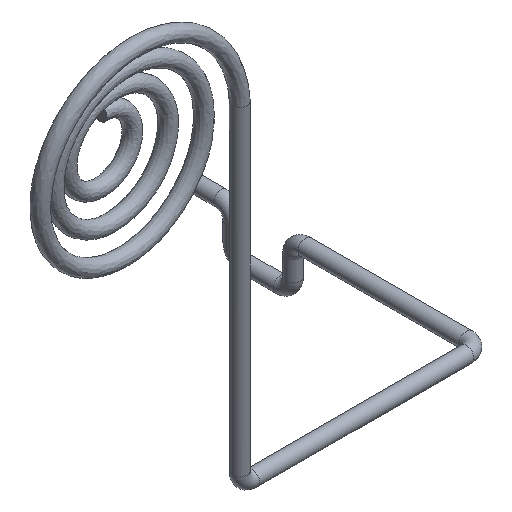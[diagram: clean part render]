
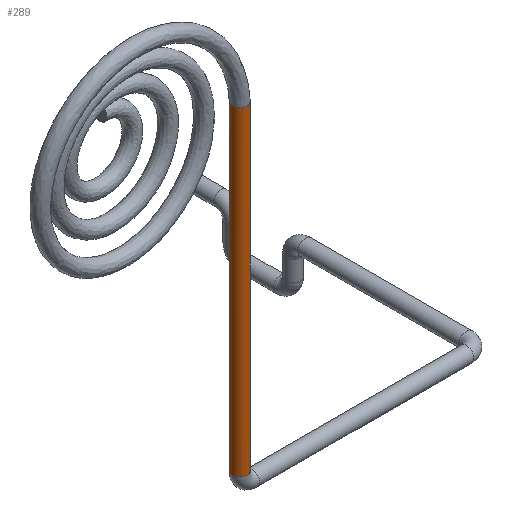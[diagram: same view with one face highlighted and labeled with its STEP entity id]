
A CAD part, isometric view. The second image highlights one B-rep face of the part: STEP entity #289.
In plain terms, the highlighted cylindrical face has radius 0.3 mm (diameter 0.6 mm), a full revolution.
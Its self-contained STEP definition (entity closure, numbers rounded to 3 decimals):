
#38=FACE_OUTER_BOUND('',#54,.T.);
#54=EDGE_LOOP('',(#253,#254,#255,#256,#257,#258,#259,#260));
#63=LINE('',#546,#70);
#70=VECTOR('',#455,0.3);
#100=CIRCLE('',#348,0.3);
#101=CIRCLE('',#349,0.3);
#102=CIRCLE('',#351,0.3);
#103=CIRCLE('',#352,0.3);
#104=CIRCLE('',#353,0.3);
#105=CIRCLE('',#354,0.3);
#130=VERTEX_POINT('',#539);
#131=VERTEX_POINT('',#541);
#132=VERTEX_POINT('',#545);
#133=VERTEX_POINT('',#547);
#134=VERTEX_POINT('',#549);
#135=VERTEX_POINT('',#551);
#172=EDGE_CURVE('',#130,#131,#100,.T.);
#173=EDGE_CURVE('',#131,#130,#101,.T.);
#174=EDGE_CURVE('',#131,#132,#63,.T.);
#175=EDGE_CURVE('',#132,#133,#102,.T.);
#176=EDGE_CURVE('',#133,#134,#103,.T.);
#177=EDGE_CURVE('',#134,#135,#104,.T.);
#178=EDGE_CURVE('',#135,#132,#105,.T.);
#253=ORIENTED_EDGE('',*,*,#173,.F.);
#254=ORIENTED_EDGE('',*,*,#174,.T.);
#255=ORIENTED_EDGE('',*,*,#175,.T.);
#256=ORIENTED_EDGE('',*,*,#176,.T.);
#257=ORIENTED_EDGE('',*,*,#177,.T.);
#258=ORIENTED_EDGE('',*,*,#178,.T.);
#259=ORIENTED_EDGE('',*,*,#174,.F.);
#260=ORIENTED_EDGE('',*,*,#172,.F.);
#275=CYLINDRICAL_SURFACE('',#350,0.3);
#289=ADVANCED_FACE('',(#38),#275,.T.);
#348=AXIS2_PLACEMENT_3D('',#542,#449,#450);
#349=AXIS2_PLACEMENT_3D('',#543,#451,#452);
#350=AXIS2_PLACEMENT_3D('',#544,#453,#454);
#351=AXIS2_PLACEMENT_3D('',#548,#456,#457);
#352=AXIS2_PLACEMENT_3D('',#550,#458,#459);
#353=AXIS2_PLACEMENT_3D('',#552,#460,#461);
#354=AXIS2_PLACEMENT_3D('',#553,#462,#463);
#449=DIRECTION('center_axis',(0.,0.,-1.));
#450=DIRECTION('ref_axis',(1.,0.,0.));
#451=DIRECTION('center_axis',(0.,0.,-1.));
#452=DIRECTION('ref_axis',(1.,0.,0.));
#453=DIRECTION('center_axis',(0.,0.,-1.));
#454=DIRECTION('ref_axis',(1.,0.,0.));
#455=DIRECTION('',(0.,0.,1.));
#456=DIRECTION('center_axis',(0.,0.,-1.));
#457=DIRECTION('ref_axis',(-1.,0.,0.));
#458=DIRECTION('center_axis',(0.,0.,-1.));
#459=DIRECTION('ref_axis',(-1.,0.,0.));
#460=DIRECTION('center_axis',(0.,0.,-1.));
#461=DIRECTION('ref_axis',(-1.,0.,0.));
#462=DIRECTION('center_axis',(0.,0.,-1.));
#463=DIRECTION('ref_axis',(-1.,0.,0.));
#539=CARTESIAN_POINT('',(4.45,0.,-12.9));
#541=CARTESIAN_POINT('',(3.85,0.,-12.9));
#542=CARTESIAN_POINT('Origin',(4.15,0.,-12.9));
#543=CARTESIAN_POINT('Origin',(4.15,0.,-12.9));
#544=CARTESIAN_POINT('Origin',(4.15,0.,0.));
#545=CARTESIAN_POINT('',(3.85,0.,0.));
#546=CARTESIAN_POINT('',(3.85,0.,0.));
#547=CARTESIAN_POINT('',(4.277,0.272,0.));
#548=CARTESIAN_POINT('Origin',(4.15,0.,0.));
#549=CARTESIAN_POINT('',(4.45,0.,0.));
#550=CARTESIAN_POINT('Origin',(4.15,0.,0.));
#551=CARTESIAN_POINT('',(4.023,-0.272,0.));
#552=CARTESIAN_POINT('Origin',(4.15,0.,0.));
#553=CARTESIAN_POINT('Origin',(4.15,0.,0.));
